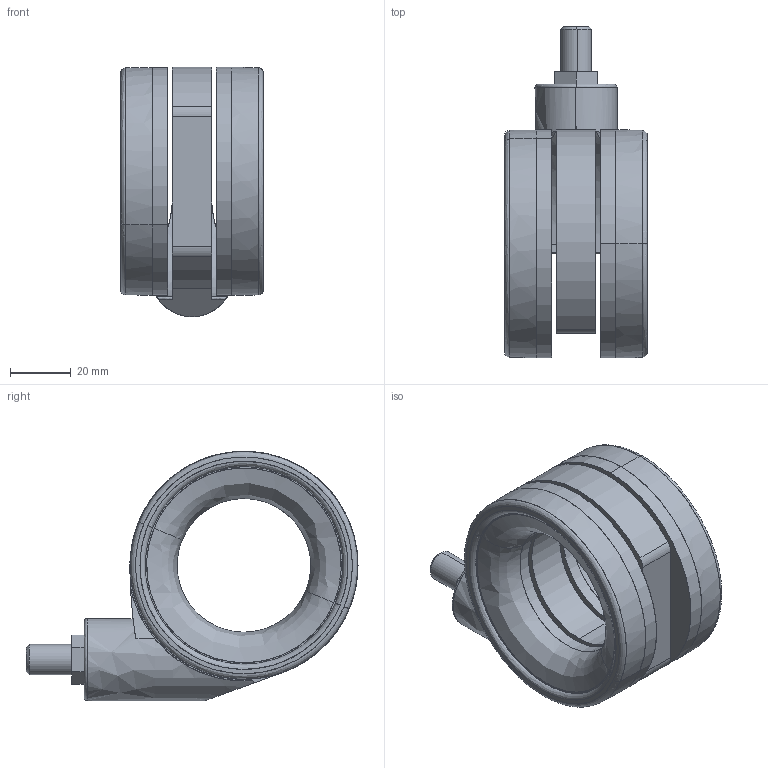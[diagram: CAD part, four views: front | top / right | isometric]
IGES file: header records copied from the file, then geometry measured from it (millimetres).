
Start section: SolidWorks IGES file using analytic representation for surfaces
Bounding box: 47 x 109.17 x 82 mm (x, y, z)
Surface area: 36666.8 mm2 (no closed solid volume)
Topology: 0 solids, 0 shells, 74 faces, 1587 edges, 1587 vertices
Faces by surface type: bspline 39, revolution 35
